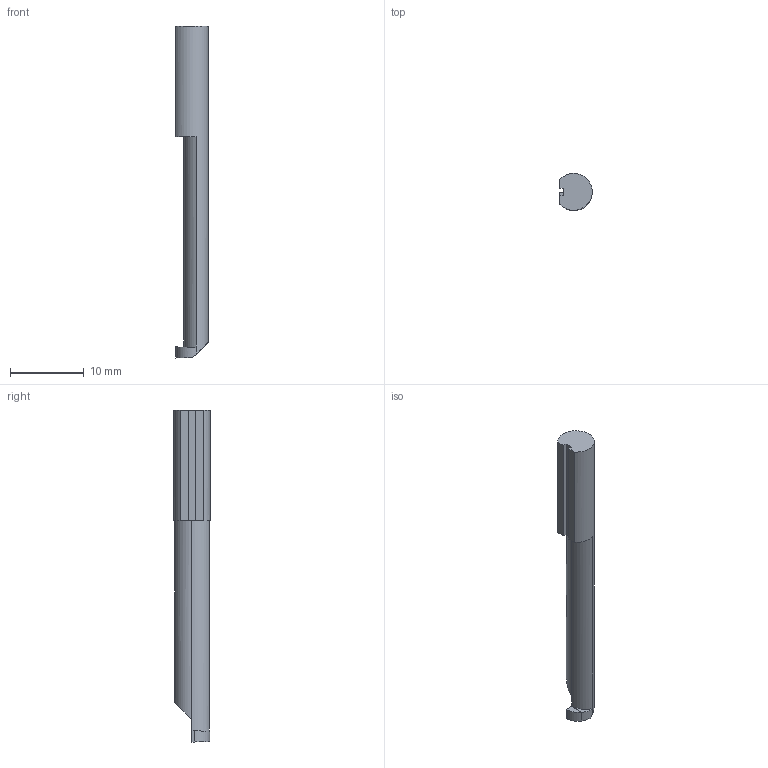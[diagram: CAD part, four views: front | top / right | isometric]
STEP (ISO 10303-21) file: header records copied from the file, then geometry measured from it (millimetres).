
FILE_DESCRIPTION(('CATIA V5 STEP Exchange'),'2;1');
FILE_NAME('I:\isr\design\admin8\users\weaam_s\6402366.L.stp','2012-01-23T06:45:35+00:00',('none'),('none'),'CATIA Version 5 Release 19 SP 7 (IN-10)','CATIA V5 STEP AP214','none');
FILE_SCHEMA(('AUTOMOTIVE_DESIGN { 1 0 10303 214 1 1 1 1 }'));
Length unit declared in the file: millimetre
Products named in the file (1): 60900253_0 Assembly PICCO R 005.0150-30
Bounding box: 4.4 x 5 x 45 mm (x, y, z)
Volume: 583.7 mm3; surface area: 643 mm2
Topology: 2 solids, 2 shells, 25 faces, 63 edges, 42 vertices
Faces by surface type: plane 18, cylinder 7
Entity records: 803 total; most frequent: CARTESIAN_POINT 195, ORIENTED_EDGE 126, DIRECTION 100, EDGE_CURVE 63, VECTOR 43, LINE 43, VERTEX_POINT 42, AXIS2_PLACEMENT_3D 34
